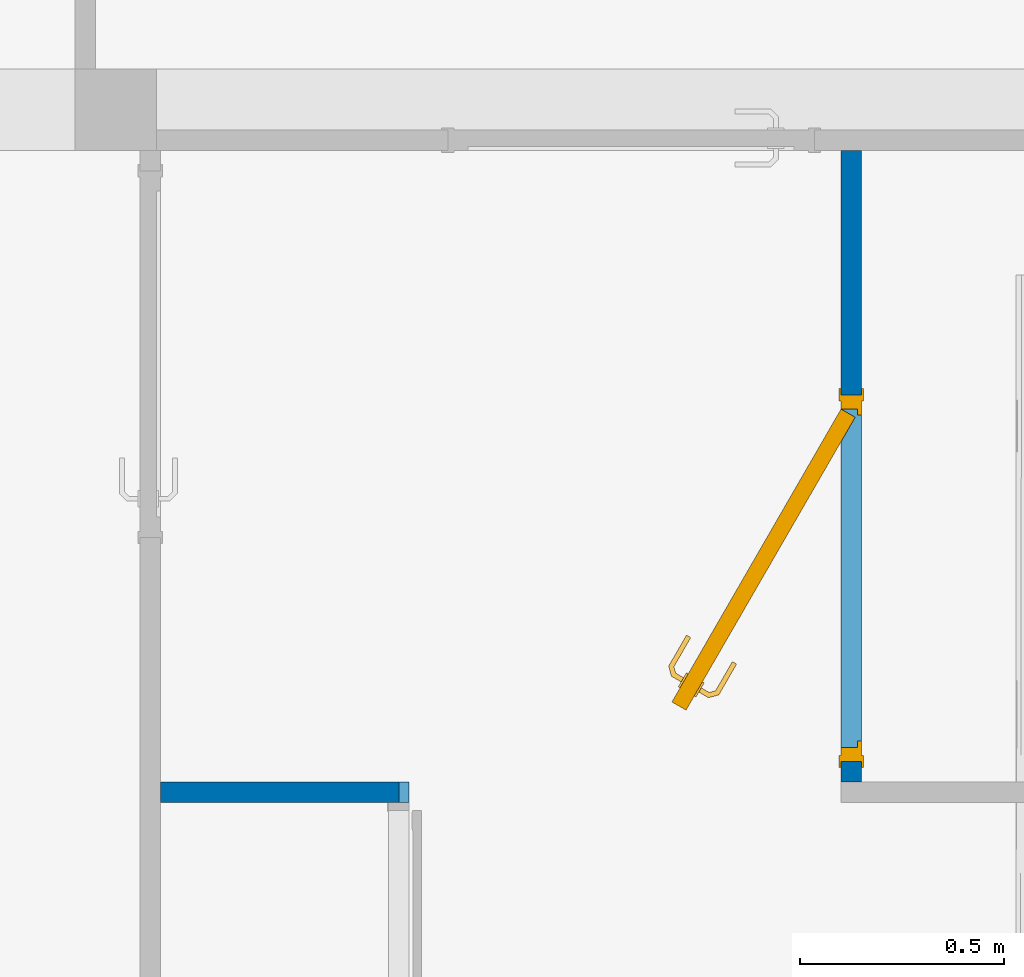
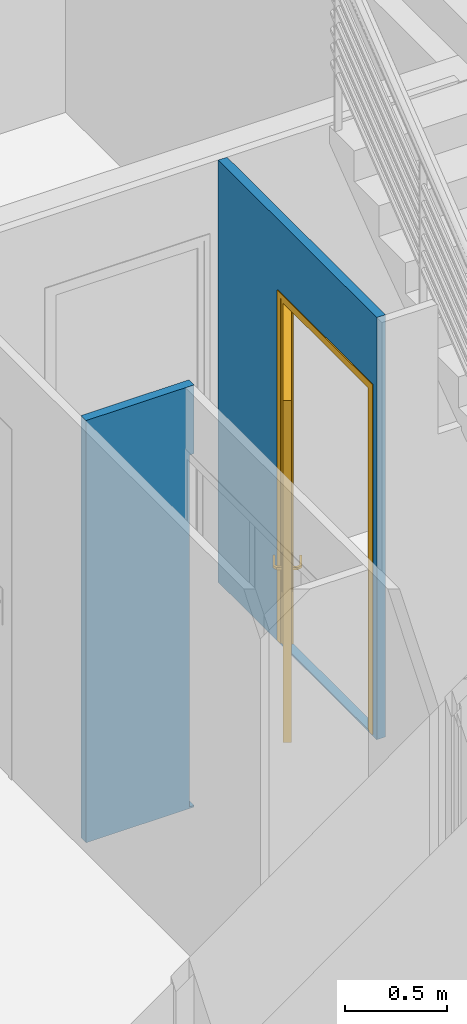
# One storey, part 4 of 12: 2 walls, 1 door, 2 openings.
"""IFC2X3 building model written with IfcOpenShell, lengths in metres."""

from ifc_helpers import new_model, entity, si_unit, converted_unit, derived_unit, direction, frame, frame_2d, origin, origin_2d_with_axis, place, context, subcontext, project, spatial, rectangle, extrude, faceted_brep, source, transform, mapped, material, material_list, layer, layer_set, layer_usage, type_object, type_shapes, element, fill, save


model = new_model("IFC2X3")

# Units and contexts
model_context = context("Model", 3, precision=1e-05, world=origin(), true_north=direction((6.12303176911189e-17, 1.0)))
context_of_model = context(None, 3, precision=1e-05, world=origin(), true_north=direction((6.12303176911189e-17, 1.0)))
body_context = subcontext(model_context, "Body", "Model", "MODEL_VIEW")
ifc_project = project(units=[si_unit("LENGTHUNIT", "METRE"), si_unit("AREAUNIT", "SQUARE_METRE"), si_unit("VOLUMEUNIT", "CUBIC_METRE"), converted_unit("PLANEANGLEUNIT", "DEGREE", entity("IfcRatioMeasure", 0.0174532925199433), si_unit("PLANEANGLEUNIT", "RADIAN"), dimensions=[0, 0, 0, 0, 0, 0, 0]), si_unit("MASSUNIT", "GRAM", prefix="KILO"), si_unit("TIMEUNIT", "SECOND"), si_unit("FREQUENCYUNIT", "HERTZ"), si_unit("THERMODYNAMICTEMPERATUREUNIT", "DEGREE_CELSIUS"), derived_unit("THERMALTRANSMITTANCEUNIT", [(si_unit("MASSUNIT", "GRAM", prefix="KILO"), 1), (si_unit("THERMODYNAMICTEMPERATUREUNIT", "KELVIN"), -1), (si_unit("TIMEUNIT", "SECOND"), -3)]), derived_unit("VOLUMETRICFLOWRATEUNIT", [(si_unit("LENGTHUNIT", "METRE"), 3), (si_unit("TIMEUNIT", "SECOND"), -1)]), si_unit("ELECTRICCURRENTUNIT", "AMPERE"), si_unit("ELECTRICVOLTAGEUNIT", "VOLT"), si_unit("POWERUNIT", "WATT"), si_unit("FORCEUNIT", "NEWTON", prefix="KILO"), si_unit("ILLUMINANCEUNIT", "LUX"), si_unit("LUMINOUSFLUXUNIT", "LUMEN"), si_unit("LUMINOUSINTENSITYUNIT", "CANDELA"), derived_unit("USERDEFINED", [(si_unit("MASSUNIT", "GRAM", prefix="KILO"), -1), (si_unit("LENGTHUNIT", "METRE"), -2), (si_unit("TIMEUNIT", "SECOND"), 3), (si_unit("LUMINOUSFLUXUNIT", "LUMEN"), 1)]), derived_unit("LINEARVELOCITYUNIT", [(si_unit("LENGTHUNIT", "METRE"), 1), (si_unit("TIMEUNIT", "SECOND"), -1)]), si_unit("PRESSUREUNIT", "PASCAL"), derived_unit("USERDEFINED", [(si_unit("LENGTHUNIT", "METRE"), -2), (si_unit("MASSUNIT", "GRAM", prefix="KILO"), 1), (si_unit("TIMEUNIT", "SECOND"), -2)])], contexts=[model_context, context_of_model])

# Site, building, storey
site_placement = place(None, origin())
site = spatial("IfcSite", under=ifc_project, at=site_placement, Name="Surface", CompositionType="ELEMENT")
building_placement = place(site_placement, origin())
building = spatial("IfcBuilding", under=site, at=building_placement, CompositionType="ELEMENT")
storey_placement = place(building_placement, origin())
storey = spatial("IfcBuildingStorey", under=building, at=storey_placement, Name="Rez de chaussée", CompositionType="ELEMENT", Elevation=0.0)

# Wall, opening
ifc_material_1 = material(Name="Maçonnerie - Isolant(1)")
ifc_layer = layer(ifc_material_1, 0.05)
ifc_layer_set = layer_set([ifc_layer], Name="Mur de base:Int. plâtre 50 mm")
ifc_layer_usage_1 = layer_usage(ifc_layer_set, "AXIS2", "NEGATIVE", 0.025)
wall_type = type_object("IfcWallType", Name="Mur de base:Int. plâtre 50 mm", PredefinedType="STANDARD", material=ifc_layer_set)
wall_1_placement = place(storey_placement, frame((-0.986088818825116, -0.0607442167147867, -0.00999999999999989), z_axis=(0.0, 0.0, 1.0), x_axis=(-1.0, 0.0, 0.0)))
wall_1 = element("IfcWallStandardCase", 1, at=wall_1_placement, inside=storey, type_object=wall_type, material=ifc_layer_usage_1, Name="Mur de base:Int. plâtre 50 mm", ObjectType="Mur de base:Int. plâtre 50 mm", context=body_context, shape_type="SweptSolid", body=[
    extrude(rectangle(XDim=0.610000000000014, YDim=0.05, at=frame_2d((0.305000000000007, 5.20417042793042e-18), x_axis=(-1.0, 0.0))), origin(), (0.0, 0.0, 1.0), 2.52),
])
opening_1_placement = place(wall_1_placement, origin())
element("IfcOpeningElement", 2, at=opening_1_placement, cuts=wall_1, Name="Mur de base:Int. plâtre 50 mm", ObjectType="Opening", context=body_context, shape_type="SweptSolid", body=[
    extrude(rectangle(XDim=2.09999999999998, YDim=0.0250000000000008, at=origin_2d_with_axis()), frame((0.0125000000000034, -0.025, 1.05999999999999), z_axis=(0.0, 1.0, 0.0), x_axis=(0.0, 0.0, -1.0)), (0.0, 0.0, 1.0), 0.05),
])

# Wall, opening, door
ifc_layer_usage_2 = layer_usage(ifc_layer_set, "AXIS2", "NEGATIVE", 0.025)
wall_2_placement = place(storey_placement, frame((0.0989111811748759, -0.0357442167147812, -0.00999999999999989), z_axis=(0.0, 0.0, 1.0), x_axis=(0.0, 1.0, 0.0)))
wall_2 = element("IfcWallStandardCase", 3, at=wall_2_placement, inside=storey, type_object=wall_type, material=ifc_layer_usage_2, Name="Mur de base:Int. plâtre 50 mm", ObjectType="Mur de base:Int. plâtre 50 mm", context=body_context, shape_type="SweptSolid", body=[
    extrude(rectangle(XDim=1.55, YDim=0.05, at=frame_2d((0.775000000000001, 0.0), x_axis=(-1.0, 0.0))), origin(), (0.0, 0.0, 1.0), 2.52),
])
opening_2_placement = place(wall_2_placement, frame((0.0500000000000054, -0.025, 0.00999999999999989)))
opening_2 = element("IfcOpeningElement", 4, at=opening_2_placement, cuts=wall_2, Name="Int. Simple:PP (0.83m x 2.04m):1", ObjectType="Opening", context=body_context, shape_type="SweptSolid", body=[
    extrude(rectangle(XDim=2.075, YDim=0.9, at=frame_2d((1.0375, 0.45), x_axis=(1.0, 0.0))), frame((0.0, 0.0, 0.0), z_axis=(0.0, 1.0, 0.0), x_axis=(0.0, 0.0, 1.0)), (0.0, 0.0, 1.0), 0.05),
])
ifc_material_2 = material(Name="Finition Peinture - Blanc satiné")
ifc_material_3 = material(Name="Bois - Panneau de porte")
ifc_material_4 = material(Name="Bois - Cadre de porte")
ifc_material_list_1 = material_list([ifc_material_2, ifc_material_3, ifc_material_4])
ifc_material_list_2 = material_list([ifc_material_2, ifc_material_3, ifc_material_4])
door_style = type_object("IfcDoorStyle", Name="PP (0.83m x 2.04m)", ConstructionType="NOTDEFINED", OperationType="SINGLE_SWING_RIGHT", ParameterTakesPrecedence=False, Sizeable=False, material=ifc_material_list_2)
shared_shape = source(origin(), body_context, "Body", "Brep", [
    faceted_brep([(0.786660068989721, -0.399330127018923, 0.870000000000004), (0.786660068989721, -0.399330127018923, 1.08), (0.778305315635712, -0.394506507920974, 1.08399601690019), (0.769339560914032, -0.389330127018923, 1.08535898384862), (0.760373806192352, -0.384153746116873, 1.08399601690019), (0.752019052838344, -0.379330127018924, 1.08), (0.752019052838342, -0.379330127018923, 0.870000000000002), (0.760373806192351, -0.384153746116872, 0.866003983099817), (0.769339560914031, -0.389330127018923, 0.86464101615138), (0.778305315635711, -0.394506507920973, 0.866003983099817), (0.789160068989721, -0.395000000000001, 1.08), (0.789160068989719, -0.395, 0.870000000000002), (0.780805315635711, -0.390176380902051, 0.866003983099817), (0.771839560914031, -0.385, 0.86464101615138), (0.76287380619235, -0.37982361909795, 0.866003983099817), (0.754519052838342, -0.375000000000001, 0.870000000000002), (0.754519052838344, -0.375000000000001, 1.08), (0.762873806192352, -0.379823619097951, 1.08399601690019), (0.771839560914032, -0.385000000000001, 1.08535898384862), (0.780805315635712, -0.390176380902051, 1.08399601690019)], [[[0, 1, 2, 3, 4, 5, 6, 7, 8, 9]], [[10, 11, 12, 13, 14, 15, 16, 17, 18, 19]], [[9, 12, 11, 0]], [[8, 13, 12, 9]], [[7, 14, 13, 8]], [[7, 6, 15, 14]], [[15, 6, 5, 16]], [[4, 17, 16, 5]], [[3, 18, 17, 4]], [[2, 19, 18, 3]], [[2, 1, 10, 19]], [[11, 10, 1, 0]]]),
    faceted_brep([(0.809160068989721, -0.360358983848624, 0.870000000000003), (0.809160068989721, -0.360358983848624, 1.08), (0.800805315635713, -0.355535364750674, 1.08399601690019), (0.791839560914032, -0.350358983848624, 1.08535898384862), (0.782873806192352, -0.345182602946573, 1.08399601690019), (0.774519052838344, -0.340358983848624, 1.08), (0.774519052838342, -0.340358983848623, 0.870000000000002), (0.782873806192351, -0.345182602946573, 0.866003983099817), (0.791839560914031, -0.350358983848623, 0.86464101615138), (0.800805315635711, -0.355535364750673, 0.866003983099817), (0.794339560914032, -0.346028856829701, 1.08535898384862), (0.803305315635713, -0.351205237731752, 1.08399601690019), (0.811660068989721, -0.356028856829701, 1.08), (0.811660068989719, -0.356028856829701, 0.870000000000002), (0.803305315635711, -0.351205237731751, 0.866003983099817), (0.794339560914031, -0.346028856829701, 0.86464101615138), (0.785373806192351, -0.34085247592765, 0.866003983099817), (0.777019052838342, -0.336028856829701, 0.870000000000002), (0.777019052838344, -0.336028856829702, 1.08), (0.785373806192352, -0.340852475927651, 1.08399601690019)], [[[0, 1, 2, 3, 4, 5, 6, 7, 8, 9]], [[10, 11, 12, 13, 14, 15, 16, 17, 18, 19]], [[4, 19, 18, 5]], [[3, 10, 19, 4]], [[2, 11, 10, 3]], [[2, 1, 12, 11]], [[13, 12, 1, 0]], [[9, 14, 13, 0]], [[8, 15, 14, 9]], [[7, 16, 15, 8]], [[7, 6, 17, 16]], [[17, 6, 5, 18]]]),
    faceted_brep([(0.767585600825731, -0.388317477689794, 1.00778044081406), (0.771093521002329, -0.390342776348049, 1.00778044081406), (0.774535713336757, -0.392330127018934, 1.00699999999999), (0.774535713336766, -0.392330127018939, 0.992999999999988), (0.771093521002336, -0.390342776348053, 0.99221955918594), (0.767585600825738, -0.388317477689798, 0.992219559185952), (0.764143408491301, -0.386330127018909, 0.993000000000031), (0.764143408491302, -0.38633012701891, 1.007), (0.758091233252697, -0.412863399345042, 1.00778044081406), (0.760710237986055, -0.416276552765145, 1.007), (0.755422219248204, -0.409385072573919, 1.00778044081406), (0.736740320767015, -0.414390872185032, 1.00778044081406), (0.73616805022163, -0.418737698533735, 1.00778044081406), (0.752803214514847, -0.405971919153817, 1.007), (0.752803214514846, -0.405971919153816, 0.993000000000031), (0.755422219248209, -0.409385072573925, 0.992219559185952), (0.758091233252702, -0.412863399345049, 0.99221955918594), (0.736168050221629, -0.418737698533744, 0.99221955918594), (0.736740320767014, -0.414390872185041, 0.992219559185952), (0.76071023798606, -0.416276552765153, 0.992999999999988), (0.735606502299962, -0.423003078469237, 1.007), (0.737301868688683, -0.410125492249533, 1.007), (0.737301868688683, -0.410125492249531, 0.993000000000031), (0.735606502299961, -0.423003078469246, 0.992999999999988), (0.659706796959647, -0.37918236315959, 1.007), (0.661694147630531, -0.375740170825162, 1.00778044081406), (0.663719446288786, -0.372232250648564, 1.00778044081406), (0.665706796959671, -0.368790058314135, 1.00699999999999), (0.665706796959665, -0.368790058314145, 0.993000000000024), (0.663719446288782, -0.372232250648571, 0.992219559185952), (0.661694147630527, -0.375740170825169, 0.99221955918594), (0.659706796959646, -0.379182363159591, 0.992999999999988), (0.699217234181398, -0.395065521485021, 1.0078786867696), (0.70102568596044, -0.403037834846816, 1.007), (0.701504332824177, -0.389457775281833, 1.007), (0.701504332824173, -0.389457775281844, 0.993000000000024), (0.699217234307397, -0.395065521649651, 0.992121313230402), (0.701025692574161, -0.403037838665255, 0.992999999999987)], [[[0, 1, 2, 3, 4, 5, 6, 7]], [[2, 1, 8, 9]], [[1, 0, 10, 11, 12, 8]], [[0, 7, 13, 10]], [[14, 13, 7, 6]], [[5, 15, 14, 6]], [[5, 4, 16, 17, 18, 15]], [[3, 19, 16, 4]], [[9, 19, 3, 2]], [[9, 8, 12, 20]], [[10, 13, 21, 11]], [[22, 21, 13, 14]], [[14, 15, 18, 22]], [[16, 19, 23, 17]], [[20, 23, 19, 9]], [[24, 25, 26, 27, 28, 29, 30, 31]], [[32, 25, 33]], [[33, 25, 24]], [[33, 20, 12]], [[11, 34, 32]], [[34, 11, 21]], [[27, 26, 34]], [[32, 26, 25]], [[32, 34, 26]], [[32, 33, 12]], [[11, 32, 12]], [[21, 22, 35, 28, 27, 34]], [[36, 29, 35]], [[30, 36, 37]], [[18, 35, 22]], [[29, 28, 35]], [[30, 37, 31]], [[37, 17, 23]], [[36, 17, 37]], [[36, 18, 17]], [[36, 35, 18]], [[29, 36, 30]], [[23, 20, 33, 24, 31, 37]]]),
    faceted_brep([(0.792585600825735, -0.345016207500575, 0.992219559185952), (0.796093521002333, -0.34704150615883, 0.99221955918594), (0.799535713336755, -0.349028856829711, 0.992999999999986), (0.799535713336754, -0.34902885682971, 1.007), (0.796093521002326, -0.347041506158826, 1.00778044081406), (0.792585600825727, -0.345016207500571, 1.00778044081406), (0.789143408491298, -0.343028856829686, 1.007), (0.789143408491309, -0.343028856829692, 0.993000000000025), (0.8003860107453, -0.323556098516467, 1.007), (0.800386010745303, -0.323556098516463, 0.993000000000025), (0.804651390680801, -0.324117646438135, 1.00778044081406), (0.808998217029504, -0.32468991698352, 1.00778044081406), (0.803073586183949, -0.302578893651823, 1.00778044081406), (0.799595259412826, -0.305247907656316, 1.00778044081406), (0.813263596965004, -0.325251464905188, 1.007), (0.813263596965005, -0.325251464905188, 0.992999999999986), (0.808998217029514, -0.324689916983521, 0.99221955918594), (0.804651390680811, -0.324117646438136, 0.992219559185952), (0.799595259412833, -0.30524790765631, 0.992219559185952), (0.803073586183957, -0.302578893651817, 0.99221955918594), (0.796182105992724, -0.307866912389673, 1.007), (0.796182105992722, -0.307866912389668, 0.993000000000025), (0.80648673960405, -0.299959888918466, 1.007), (0.806486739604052, -0.299959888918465, 0.992999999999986), (0.726669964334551, -0.263144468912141, 1.00778044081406), (0.728695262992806, -0.259636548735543, 1.00778044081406), (0.730682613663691, -0.256194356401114, 1.007), (0.730682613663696, -0.256194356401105, 0.992999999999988), (0.72869526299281, -0.259636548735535, 0.99221955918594), (0.726669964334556, -0.263144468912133, 0.992219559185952), (0.724682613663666, -0.26658666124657, 0.993000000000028), (0.724682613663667, -0.266586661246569, 1.007), (0.760432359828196, -0.287226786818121, 1.007), (0.760432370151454, -0.28722679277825, 0.993000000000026), (0.764145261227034, -0.282442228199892, 1.0078786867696), (0.771905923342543, -0.279994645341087, 1.007), (0.771905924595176, -0.279994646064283, 0.992999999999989), (0.764145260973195, -0.282442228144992, 0.992121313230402)], [[[0, 1, 2, 3, 4, 5, 6, 7]], [[8, 9, 7, 6]], [[5, 10, 8, 6]], [[5, 4, 11, 12, 13, 10]], [[3, 14, 11, 4]], [[14, 3, 2, 15]], [[2, 1, 16, 15]], [[1, 0, 17, 18, 19, 16]], [[0, 7, 9, 17]], [[20, 21, 9, 8]], [[8, 10, 13, 20]], [[14, 22, 12, 11]], [[23, 22, 14, 15]], [[15, 16, 19, 23]], [[17, 9, 21, 18]], [[24, 25, 26, 27, 28, 29, 30, 31]], [[21, 20, 32, 31, 30, 33]], [[34, 24, 32]], [[25, 34, 35]], [[13, 32, 20]], [[24, 31, 32]], [[25, 35, 26]], [[35, 12, 22]], [[34, 12, 35]], [[34, 13, 12]], [[34, 32, 13]], [[24, 34, 25]], [[22, 23, 36, 27, 26, 35]], [[37, 28, 36]], [[36, 28, 27]], [[36, 23, 19]], [[18, 33, 37]], [[33, 18, 21]], [[30, 29, 33]], [[37, 29, 28]], [[37, 33, 29]], [[37, 36, 19]], [[18, 37, 19]]]),
    faceted_brep([(0.843801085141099, -0.380358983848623, 2.04), (0.843801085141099, -0.380358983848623, 0.0), (0.125000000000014, 0.0346410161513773, 0.0), (0.125000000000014, 0.0346410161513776, 2.04), (0.823801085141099, -0.415, 2.04), (0.105000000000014, 0.0, 2.04), (0.105000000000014, 0.0, 0.0), (0.823801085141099, -0.415, 0.0)], [[[0, 1, 2, 3]], [[4, 5, 6, 7]], [[3, 5, 4, 0]], [[2, 6, 5, 3]], [[1, 7, 6, 2]], [[0, 4, 7, 1]]]),
    faceted_brep([(0.970000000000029, 0.0, 0.0), (0.935000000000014, 0.0, 0.0), (0.935000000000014, 0.040000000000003, 0.0), (0.920000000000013, 0.040000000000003, 0.0), (0.920000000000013, 0.050000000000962, 0.0), (0.970000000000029, 0.050000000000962, 0.0), (0.970000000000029, 0.050000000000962, 2.07500000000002), (0.970000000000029, 0.0, 2.07500000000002), (0.920000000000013, 0.050000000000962, 2.025), (0.120000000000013, 0.050000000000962, 2.025), (0.120000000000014, 0.050000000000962, 0.0), (0.0699999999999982, 0.050000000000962, 0.0), (0.0699999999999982, 0.050000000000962, 2.07500000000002), (0.920000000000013, 0.040000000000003, 2.025), (0.935000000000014, 0.040000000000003, 2.04), (0.105000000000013, 0.040000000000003, 2.04), (0.105000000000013, 0.040000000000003, 0.0), (0.120000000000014, 0.040000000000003, 0.0), (0.120000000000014, 0.040000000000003, 2.025), (0.935000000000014, 0.0, 2.04), (0.069999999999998, 0.0, 2.07500000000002), (0.0699999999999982, 0.0, 0.0), (0.105000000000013, 0.0, 0.0), (0.105000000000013, 0.0, 2.04)], [[[0, 1, 2, 3, 4, 5]], [[5, 6, 7, 0]], [[4, 8, 9, 10, 11, 12, 6, 5]], [[3, 13, 8, 4]], [[2, 14, 15, 16, 17, 18, 13, 3]], [[1, 19, 14, 2]], [[0, 7, 20, 21, 22, 23, 19, 1]], [[12, 11, 21, 20]], [[21, 11, 10, 17, 16, 22]], [[18, 17, 10, 9]], [[23, 22, 16, 15]], [[6, 12, 20, 7]], [[13, 18, 9, 8]], [[19, 23, 15, 14]]]),
    faceted_brep([(0.955000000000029, 0.050000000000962, 0.0), (0.955000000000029, 0.055000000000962, 0.0), (0.985000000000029, 0.055000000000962, 0.0), (0.985000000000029, 0.050000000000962, 0.0), (0.985000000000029, 0.050000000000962, 2.09000000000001), (0.0550000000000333, 0.050000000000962, 2.09000000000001), (0.0550000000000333, 0.050000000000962, 0.0), (0.0850000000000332, 0.050000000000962, 0.0), (0.0850000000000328, 0.050000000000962, 2.06000000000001), (0.955000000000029, 0.050000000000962, 2.06000000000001), (0.985000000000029, 0.055000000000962, 2.09000000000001), (0.955000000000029, 0.055000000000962, 2.06000000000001), (0.0850000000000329, 0.055000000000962, 2.06000000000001), (0.0850000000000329, 0.055000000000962, 0.0), (0.055000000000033, 0.055000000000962, 0.0), (0.0550000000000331, 0.055000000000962, 2.09000000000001)], [[[0, 1, 2, 3]], [[3, 4, 5, 6, 7, 8, 9, 0]], [[2, 10, 4, 3]], [[1, 11, 12, 13, 14, 15, 10, 2]], [[0, 9, 11, 1]], [[7, 6, 14, 13]], [[8, 7, 13, 12]], [[15, 14, 6, 5]], [[10, 15, 5, 4]], [[9, 8, 12, 11]]]),
    faceted_brep([(0.985000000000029, -0.005, 0.0), (0.985000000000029, -0.005, 2.09000000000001), (0.0550000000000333, -0.005, 2.09000000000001), (0.0550000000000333, -0.005, 0.0), (0.0850000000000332, -0.005, 0.0), (0.0850000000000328, -0.005, 2.06000000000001), (0.955000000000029, -0.005, 2.06000000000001), (0.955000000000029, -0.005, 0.0), (0.985000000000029, 0.0, 0.0), (0.985000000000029, 0.0, 2.09000000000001), (0.955000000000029, 0.0, 0.0), (0.955000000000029, 0.0, 2.06000000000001), (0.0850000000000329, 0.0, 2.06000000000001), (0.0850000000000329, 0.0, 0.0), (0.055000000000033, 0.0, 0.0), (0.0550000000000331, 0.0, 2.09000000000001)], [[[0, 1, 2, 3, 4, 5, 6, 7]], [[8, 9, 1, 0]], [[10, 11, 12, 13, 14, 15, 9, 8]], [[7, 6, 11, 10]], [[5, 4, 13, 12]], [[15, 14, 3, 2]], [[9, 15, 2, 1]], [[6, 5, 12, 11]], [[4, 3, 14, 13]], [[7, 10, 8, 0]]]),
])
type_shapes(door_style, [shared_shape])
door_placement = place(opening_2_placement, frame((0.970000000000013, 0.05, 0.0), z_axis=(0.0, 0.0, 1.0), x_axis=(-1.0, 0.0, 0.0)))
door = element("IfcDoor", 5, at=door_placement, inside=storey, type_object=door_style, material=ifc_material_list_1, Name="Int. Simple:PP (0.83m x 2.04m)", ObjectType="PP (0.83m x 2.04m)", OverallHeight=2.075, OverallWidth=0.9, context=body_context, shape_type="MappedRepresentation", body=[
    mapped(shared_shape, transform((0.0, 0.0, 0.0), scale=1.0)),
])
fill(opening_2, door)

save(model, "model.ifc")
